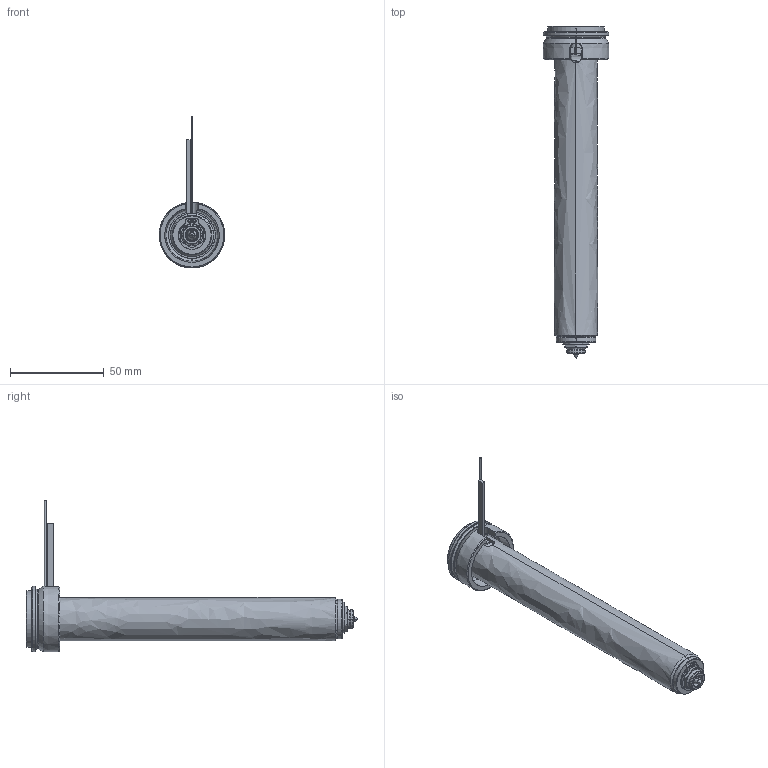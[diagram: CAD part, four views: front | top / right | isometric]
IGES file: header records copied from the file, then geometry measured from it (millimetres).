
Start section: SolidWorks IGES file using analytic representation for surfaces
Global section: file name: C:\Documents and Settings\ws-20\Desktop\TEM\UGEP3054-M-A-1 [Øf-0.50 ØC-6.0].IGS; native system: SolidWorks 2012; preprocessor: SolidWorks 2012; author: ws-20; date: 120402.112528; units: millimetre
Bounding box: 35 x 176.8 x 80.9 mm (x, y, z)
Surface area: 25228.8 mm2 (no closed solid volume)
Topology: 0 solids, 0 shells, 126 faces, 1755 edges, 1755 vertices
Faces by surface type: revolution 79, bspline 47
